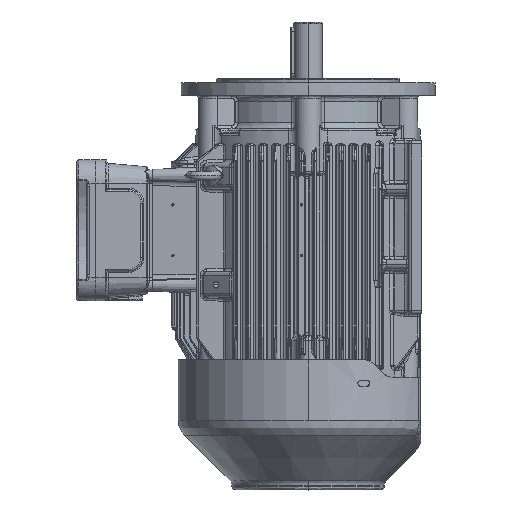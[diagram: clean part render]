
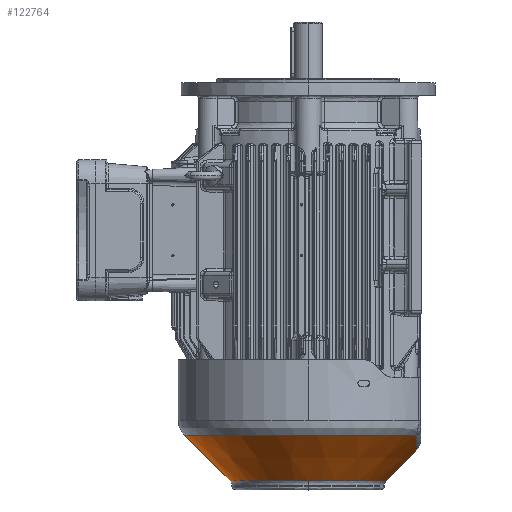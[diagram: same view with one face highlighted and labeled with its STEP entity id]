
A CAD part, left-side view. The second image highlights one B-rep face of the part: STEP entity #122764.
In plain terms, the highlighted conical face has half-angle 45 degrees and reference radius 121.842 mm.
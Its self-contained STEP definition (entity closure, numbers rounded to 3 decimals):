
#673 = CARTESIAN_POINT ( 'NONE',  ( 0., 121.842, -176.508 ) ) ;
#6436 = CARTESIAN_POINT ( 'NONE',  ( -15.787, -107.095, -190.098 ) ) ;
#7084 = CARTESIAN_POINT ( 'NONE',  ( -9.253, -107.154, -190.805 ) ) ;
#11717 = EDGE_CURVE ( 'NONE', #44511, #119404, #176374, .T. ) ;
#12057 = B_SPLINE_CURVE_WITH_KNOTS ( 'NONE', 3,
 ( #126030, #141401, #112744, #7084, #36945, #142078, #20925, #68105, #35590, #172587, #112058, #6436, #82097, #127397, #171917, #52854, #50837, #157977, #128728, #173235, #21601, #20302, #34934, #50176, #81415, #187173, #22294, #126717, #174590, #82747, #37581, #143401, #96061, #52160, #83402, #36265, #19629, #157298, #51502, #158654 ),
 .UNSPECIFIED., .F., .F.,
 ( 4, 2, 2, 1, 1, 1, 1, 2, 2, 2, 2, 1, 1, 1, 1, 2, 2, 2, 2, 1, 1, 1, 1, 2, 2, 4 ),
 ( 0., 0.125, 0.187, 0.219, 0.234, 0.242, 0.246, 0.248, 0.25, 0.375, 0.437, 0.469, 0.484, 0.492, 0.496, 0.498, 0.5, 0.625, 0.687, 0.719, 0.734, 0.742, 0.746, 0.748, 0.75, 1. ),
 .UNSPECIFIED. ) ;
#12176 = EDGE_CURVE ( 'NONE', #51550, #120544, #102309, .T. ) ;
#12424 = EDGE_CURVE ( 'NONE', #119404, #57633, #12057, .T. ) ;
#16328 = AXIS2_PLACEMENT_3D ( 'NONE', #18062, #77890, #169673 ) ;
#18062 = CARTESIAN_POINT ( 'NONE',  ( 0., 0., -176.508 ) ) ;
#18799 = EDGE_CURVE ( 'NONE', #51550, #153373, #74159, .T. ) ;
#19629 = CARTESIAN_POINT ( 'NONE',  ( -45.768, -106.496, -182.436 ) ) ;
#20302 = CARTESIAN_POINT ( 'NONE',  ( -30.871, -106.852, -187.128 ) ) ;
#20925 = CARTESIAN_POINT ( 'NONE',  ( -13.55, -107.118, -190.382 ) ) ;
#21601 = CARTESIAN_POINT ( 'NONE',  ( -30.591, -106.858, -187.2 ) ) ;
#21969 = EDGE_LOOP ( 'NONE', ( #124550, #60983, #68142, #113366, #193208, #130586 ) ) ;
#22294 = CARTESIAN_POINT ( 'NONE',  ( -36.015, -106.741, -185.721 ) ) ;
#26809 = AXIS2_PLACEMENT_3D ( 'NONE', #86188, #116151, #132187 ) ;
#30820 = CARTESIAN_POINT ( 'NONE',  ( -59.923, -106.088, -176.508 ) ) ;
#34934 = CARTESIAN_POINT ( 'NONE',  ( -30.991, -106.849, -187.097 ) ) ;
#35590 = CARTESIAN_POINT ( 'NONE',  ( -15.29, -107.1, -190.164 ) ) ;
#36265 = CARTESIAN_POINT ( 'NONE',  ( -45.728, -106.497, -182.451 ) ) ;
#36945 = CARTESIAN_POINT ( 'NONE',  ( -10.574, -107.144, -190.693 ) ) ;
#37581 = CARTESIAN_POINT ( 'NONE',  ( -43.654, -106.552, -183.205 ) ) ;
#40775 = EDGE_CURVE ( 'NONE', #120544, #44511, #106459, .T. ) ;
#44511 = VERTEX_POINT ( 'NONE', #110557 ) ;
#44719 = DIRECTION ( 'NONE',  ( 0., 0.707, 0.707 ) ) ;
#45790 = FACE_OUTER_BOUND ( 'NONE', #21969, .T. ) ;
#48077 = CARTESIAN_POINT ( 'NONE',  ( 0., 0., -176.508 ) ) ;
#50176 = CARTESIAN_POINT ( 'NONE',  ( -31.071, -106.848, -187.076 ) ) ;
#50837 = CARTESIAN_POINT ( 'NONE',  ( -26.045, -106.944, -188.287 ) ) ;
#51502 = CARTESIAN_POINT ( 'NONE',  ( -55.163, -106.233, -178.723 ) ) ;
#51550 = VERTEX_POINT ( 'NONE', #73927 ) ;
#52160 = CARTESIAN_POINT ( 'NONE',  ( -45.536, -106.502, -182.522 ) ) ;
#52854 = CARTESIAN_POINT ( 'NONE',  ( -24.772, -106.967, -188.559 ) ) ;
#57633 = VERTEX_POINT ( 'NONE', #30820 ) ;
#60983 = ORIENTED_EDGE ( 'NONE', *, *, #12176, .T. ) ;
#68105 = CARTESIAN_POINT ( 'NONE',  ( -14.709, -107.106, -190.239 ) ) ;
#68142 = ORIENTED_EDGE ( 'NONE', *, *, #40775, .T. ) ;
#73103 = DIRECTION ( 'NONE',  ( 0., -0.707, 0.707 ) ) ;
#73927 = CARTESIAN_POINT ( 'NONE',  ( 0., 76.757, -221.593 ) ) ;
#74159 = LINE ( 'NONE', #196965, #95507 ) ;
#77890 = DIRECTION ( 'NONE',  ( 0., 0., 1. ) ) ;
#80174 = AXIS2_PLACEMENT_3D ( 'NONE', #48077, #152611, #93976 ) ;
#81415 = CARTESIAN_POINT ( 'NONE',  ( -31.113, -106.847, -187.065 ) ) ;
#82097 = CARTESIAN_POINT ( 'NONE',  ( -15.831, -107.094, -190.092 ) ) ;
#82747 = CARTESIAN_POINT ( 'NONE',  ( -42.734, -106.576, -183.527 ) ) ;
#83402 = CARTESIAN_POINT ( 'NONE',  ( -45.651, -106.499, -182.479 ) ) ;
#86188 = CARTESIAN_POINT ( 'NONE',  ( 0., 0., -221.593 ) ) ;
#93976 = DIRECTION ( 'NONE',  ( 0., -1., 0. ) ) ;
#95507 = VECTOR ( 'NONE', #44719, 1000. ) ;
#96061 = CARTESIAN_POINT ( 'NONE',  ( -45.266, -106.509, -182.621 ) ) ;
#99657 = EDGE_CURVE ( 'NONE', #153373, #57633, #172320, .T. ) ;
#100991 = CARTESIAN_POINT ( 'NONE',  ( -76.757, 0., -221.593 ) ) ;
#102309 = CIRCLE ( 'NONE', #158626, 76.757 ) ;
#106459 = CIRCLE ( 'NONE', #26809, 76.757 ) ;
#107656 = CONICAL_SURFACE ( 'NONE', #80174, 121.842, 0.785 ) ;
#110557 = CARTESIAN_POINT ( 'NONE',  ( 0., -76.757, -221.593 ) ) ;
#112058 = CARTESIAN_POINT ( 'NONE',  ( -15.704, -107.095, -190.109 ) ) ;
#112744 = CARTESIAN_POINT ( 'NONE',  ( -5.292, -107.177, -191.075 ) ) ;
#113366 = ORIENTED_EDGE ( 'NONE', *, *, #11717, .T. ) ;
#116151 = DIRECTION ( 'NONE',  ( 0., 0., 1. ) ) ;
#119404 = VERTEX_POINT ( 'NONE', #123705 ) ;
#120544 = VERTEX_POINT ( 'NONE', #100991 ) ;
#122764 = ADVANCED_FACE ( 'NONE', ( #45790 ), #107656, .T. ) ;
#123705 = CARTESIAN_POINT ( 'NONE',  ( 0., -107.185, -191.165 ) ) ;
#124550 = ORIENTED_EDGE ( 'NONE', *, *, #18799, .F. ) ;
#126030 = CARTESIAN_POINT ( 'NONE',  ( 0., -107.185, -191.165 ) ) ;
#126717 = CARTESIAN_POINT ( 'NONE',  ( -39.675, -106.653, -184.562 ) ) ;
#127397 = CARTESIAN_POINT ( 'NONE',  ( -18.417, -107.065, -189.742 ) ) ;
#128713 = VECTOR ( 'NONE', #73103, 1000. ) ;
#128728 = CARTESIAN_POINT ( 'NONE',  ( -28.913, -106.891, -187.621 ) ) ;
#130586 = ORIENTED_EDGE ( 'NONE', *, *, #99657, .F. ) ;
#132187 = DIRECTION ( 'NONE',  ( 0., -1., 0. ) ) ;
#141401 = CARTESIAN_POINT ( 'NONE',  ( -2.652, -107.185, -191.165 ) ) ;
#142078 = CARTESIAN_POINT ( 'NONE',  ( -12.557, -107.127, -190.491 ) ) ;
#143401 = CARTESIAN_POINT ( 'NONE',  ( -44.729, -106.524, -182.817 ) ) ;
#152611 = DIRECTION ( 'NONE',  ( 0., 0., 1. ) ) ;
#153373 = VERTEX_POINT ( 'NONE', #673 ) ;
#157298 = CARTESIAN_POINT ( 'NONE',  ( -50.469, -106.369, -180.695 ) ) ;
#157977 = CARTESIAN_POINT ( 'NONE',  ( -27.957, -106.909, -187.848 ) ) ;
#158626 = AXIS2_PLACEMENT_3D ( 'NONE', #189970, #191323, #160766 ) ;
#158654 = CARTESIAN_POINT ( 'NONE',  ( -59.923, -106.088, -176.508 ) ) ;
#160766 = DIRECTION ( 'NONE',  ( 0., -1., 0. ) ) ;
#169673 = DIRECTION ( 'NONE',  ( 0., -1., 0. ) ) ;
#171917 = CARTESIAN_POINT ( 'NONE',  ( -20.957, -107.029, -189.317 ) ) ;
#172320 = CIRCLE ( 'NONE', #16328, 121.842 ) ;
#172587 = CARTESIAN_POINT ( 'NONE',  ( -15.58, -107.097, -190.126 ) ) ;
#173235 = CARTESIAN_POINT ( 'NONE',  ( -30.031, -106.869, -187.342 ) ) ;
#174590 = CARTESIAN_POINT ( 'NONE',  ( -40.897, -106.623, -184.159 ) ) ;
#176374 = LINE ( 'NONE', #194740, #128713 ) ;
#187173 = CARTESIAN_POINT ( 'NONE',  ( -33.583, -106.796, -186.423 ) ) ;
#189970 = CARTESIAN_POINT ( 'NONE',  ( 0., 0., -221.593 ) ) ;
#191323 = DIRECTION ( 'NONE',  ( 0., 0., 1. ) ) ;
#193208 = ORIENTED_EDGE ( 'NONE', *, *, #12424, .T. ) ;
#194740 = CARTESIAN_POINT ( 'NONE',  ( 0., -121.842, -176.508 ) ) ;
#196965 = CARTESIAN_POINT ( 'NONE',  ( 0., 121.842, -176.508 ) ) ;
